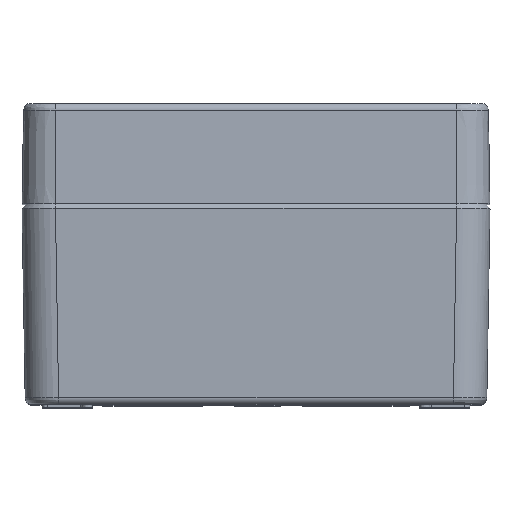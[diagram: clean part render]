
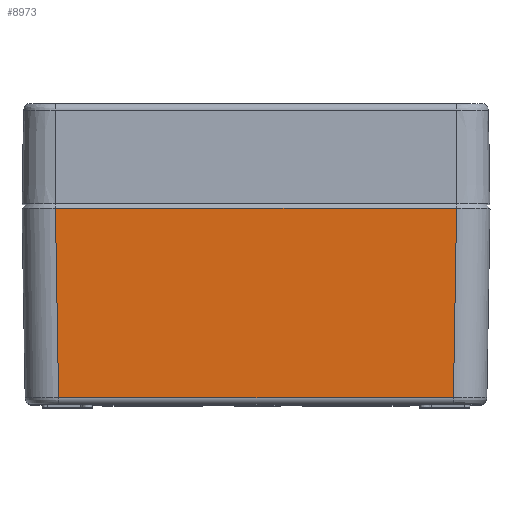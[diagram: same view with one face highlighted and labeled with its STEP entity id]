
A CAD part, top view. The second image highlights one B-rep face of the part: STEP entity #8973.
In plain terms, the highlighted planar face has unit normal (0, -0.017, 1).
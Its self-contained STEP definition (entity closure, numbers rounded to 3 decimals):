
#799 = ORIENTED_EDGE ( 'NONE', *, *, #41626, .F. ) ;
#1270 = LINE ( 'NONE', #16750, #6875 ) ;
#1346 = ORIENTED_EDGE ( 'NONE', *, *, #14827, .T. ) ;
#4130 = CARTESIAN_POINT ( 'NONE',  ( -59.891, 58.623, 70.002 ) ) ;
#4831 = ORIENTED_EDGE ( 'NONE', *, *, #23418, .T. ) ;
#4915 = CARTESIAN_POINT ( 'NONE',  ( -59.928, 58.623, 70.002 ) ) ;
#5738 = CARTESIAN_POINT ( 'NONE',  ( 59.919, 58.623, 70.002 ) ) ;
#6781 = CARTESIAN_POINT ( 'NONE',  ( -62.378, 58.623, 70.002 ) ) ;
#6875 = VECTOR ( 'NONE', #28663, 1000. ) ;
#7384 = VERTEX_POINT ( 'NONE', #46501 ) ;
#8898 = LINE ( 'NONE', #44138, #24364 ) ;
#8973 = ADVANCED_FACE ( 'NONE', ( #39750 ), #12382, .T. ) ;
#9281 = EDGE_CURVE ( 'NONE', #14627, #23578, #10569, .T. ) ;
#10569 = LINE ( 'NONE', #6781, #45298 ) ;
#11321 = DIRECTION ( 'NONE',  ( 0.017, -1., -0.017 ) ) ;
#11785 = CARTESIAN_POINT ( 'NONE',  ( -60.003, 58.623, 70.002 ) ) ;
#12382 = PLANE ( 'NONE',  #14502 ) ;
#13836 = CARTESIAN_POINT ( 'NONE',  ( 60.003, 58.624, 70.002 ) ) ;
#14502 = AXIS2_PLACEMENT_3D ( 'NONE', #47605, #43802, #35701 ) ;
#14627 = VERTEX_POINT ( 'NONE', #38966 ) ;
#14827 = EDGE_CURVE ( 'NONE', #46518, #14627, #27289, .T. ) ;
#16750 = CARTESIAN_POINT ( 'NONE',  ( -62.378, 1.967, 69.058 ) ) ;
#16771 = ORIENTED_EDGE ( 'NONE', *, *, #9281, .T. ) ;
#17410 = CARTESIAN_POINT ( 'NONE',  ( 59.876, 58.623, 70.002 ) ) ;
#20386 = CARTESIAN_POINT ( 'NONE',  ( -59.966, 58.623, 70.002 ) ) ;
#21130 = CARTESIAN_POINT ( 'NONE',  ( -60.003, 58.623, 70.002 ) ) ;
#22740 = CARTESIAN_POINT ( 'NONE',  ( -60.003, 58.623, 70.002 ) ) ;
#23418 = EDGE_CURVE ( 'NONE', #41250, #7384, #42508, .T. ) ;
#23578 = VERTEX_POINT ( 'NONE', #4130 ) ;
#24161 = CARTESIAN_POINT ( 'NONE',  ( -59.891, 58.623, 70.002 ) ) ;
#24364 = VECTOR ( 'NONE', #43383, 1000. ) ;
#25117 = EDGE_CURVE ( 'NONE', #23578, #41250, #30415, .T. ) ;
#26170 = VECTOR ( 'NONE', #11321, 1000. ) ;
#27289 = B_SPLINE_CURVE_WITH_KNOTS ( 'NONE', 3,
 ( #13836, #40725, #5738, #17410 ),
 .UNSPECIFIED., .F., .F.,
 ( 4, 4 ),
 ( 0., 0. ),
 .UNSPECIFIED. ) ;
#28663 = DIRECTION ( 'NONE',  ( -1., 0., 0. ) ) ;
#30303 = EDGE_LOOP ( 'NONE', ( #16771, #41289, #4831, #34460, #799, #1346 ) ) ;
#30415 = B_SPLINE_CURVE_WITH_KNOTS ( 'NONE', 3,
 ( #24161, #4915, #20386, #21130 ),
 .UNSPECIFIED., .F., .F.,
 ( 4, 4 ),
 ( 0., 0. ),
 .UNSPECIFIED. ) ;
#34460 = ORIENTED_EDGE ( 'NONE', *, *, #36480, .F. ) ;
#35701 = DIRECTION ( 'NONE',  ( 0., -1., -0.017 ) ) ;
#36480 = EDGE_CURVE ( 'NONE', #37109, #7384, #1270, .T. ) ;
#37109 = VERTEX_POINT ( 'NONE', #49434 ) ;
#38966 = CARTESIAN_POINT ( 'NONE',  ( 59.876, 58.623, 70.002 ) ) ;
#39750 = FACE_OUTER_BOUND ( 'NONE', #30303, .T. ) ;
#40725 = CARTESIAN_POINT ( 'NONE',  ( 59.961, 58.624, 70.002 ) ) ;
#41250 = VERTEX_POINT ( 'NONE', #11785 ) ;
#41289 = ORIENTED_EDGE ( 'NONE', *, *, #25117, .T. ) ;
#41626 = EDGE_CURVE ( 'NONE', #46518, #37109, #8898, .T. ) ;
#42256 = DIRECTION ( 'NONE',  ( -1., 0., 0. ) ) ;
#42508 = LINE ( 'NONE', #22740, #26170 ) ;
#43383 = DIRECTION ( 'NONE',  ( -0.017, -1., -0.017 ) ) ;
#43802 = DIRECTION ( 'NONE',  ( 0., -0.017, 1. ) ) ;
#44138 = CARTESIAN_POINT ( 'NONE',  ( 60.024, 59.856, 70.023 ) ) ;
#45298 = VECTOR ( 'NONE', #42256, 1000. ) ;
#46501 = CARTESIAN_POINT ( 'NONE',  ( -59.059, 1.967, 69.058 ) ) ;
#46518 = VERTEX_POINT ( 'NONE', #47431 ) ;
#47431 = CARTESIAN_POINT ( 'NONE',  ( 60.003, 58.624, 70.002 ) ) ;
#47605 = CARTESIAN_POINT ( 'NONE',  ( -62.378, -1.172, 69.005 ) ) ;
#49434 = CARTESIAN_POINT ( 'NONE',  ( 59.059, 1.967, 69.058 ) ) ;
